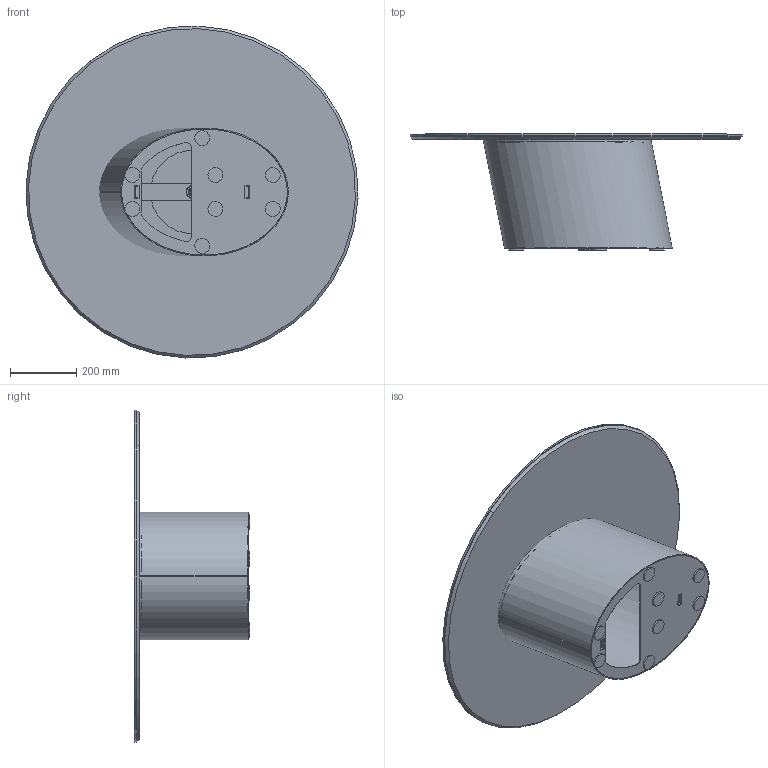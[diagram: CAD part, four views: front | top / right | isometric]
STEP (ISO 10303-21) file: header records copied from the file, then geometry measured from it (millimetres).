
FILE_DESCRIPTION (( 'STEP AP203' ), '1' );
FILE_NAME ('D103C.STEP', '2024-08-07T11:18:25', ( '' ), ( '' ), 'SwSTEP 2.0', 'SolidWorks 2022', '' );
FILE_SCHEMA (( 'CONFIG_CONTROL_DESIGN' ));
Length unit declared in the file: millimetre
Products named in the file (8): P0000005-00-FILETTO M24 CON FORO H.20mm; M8xXXmm_M8X35mm; P0000003-00-STAFFA DI FISSAGGIO DIAMETRO 250_P0000003-250mm normale; Parte matrice basamento DORADO LOW H350_Default<A macchina>; D103C; KXXCXX-00-Piani Rotondi in ceramica CON PIASTRA_K03P PIANO CERAMICA D.100cm; Parte2^Dxxxx-00-DORADO LOW; K1XCMXX-00-Piani Rotondi in ceramica_D.1000
Assembly tree (14 placements, depth 3):
  D103C
    Parte matrice basamento DORADO LOW H350_Default<A macchina>
    Parte2^Dxxxx-00-DORADO LOW  x8
    KXXCXX-00-Piani Rotondi in ceramica CON PIASTRA_K03P PIANO CERAMICA D.100cm
      K1XCMXX-00-Piani Rotondi in ceramica_D.1000
      P0000003-00-STAFFA DI FISSAGGIO DIAMETRO 250_P0000003-250mm normale
      M8xXXmm_M8X35mm
      P0000005-00-FILETTO M24 CON FORO H.20mm
Bounding box: 999.3 x 349 x 999.3 mm (x, y, z)
Volume: 14704579.3 mm3; surface area: 4742741.8 mm2
Topology: 20 solids, 20 shells, 246 faces, 593 edges, 386 vertices
Faces by surface type: cylinder 102, plane 102, cone 21, bspline 17, torus 4
Entity records: 12827 total; most frequent: CARTESIAN_POINT 6645, ORIENTED_EDGE 1098, DIRECTION 1038, EDGE_CURVE 549, AXIS2_PLACEMENT_3D 389, VERTEX_POINT 358, VECTOR 260, LINE 260
